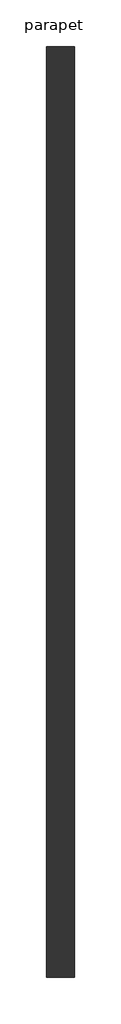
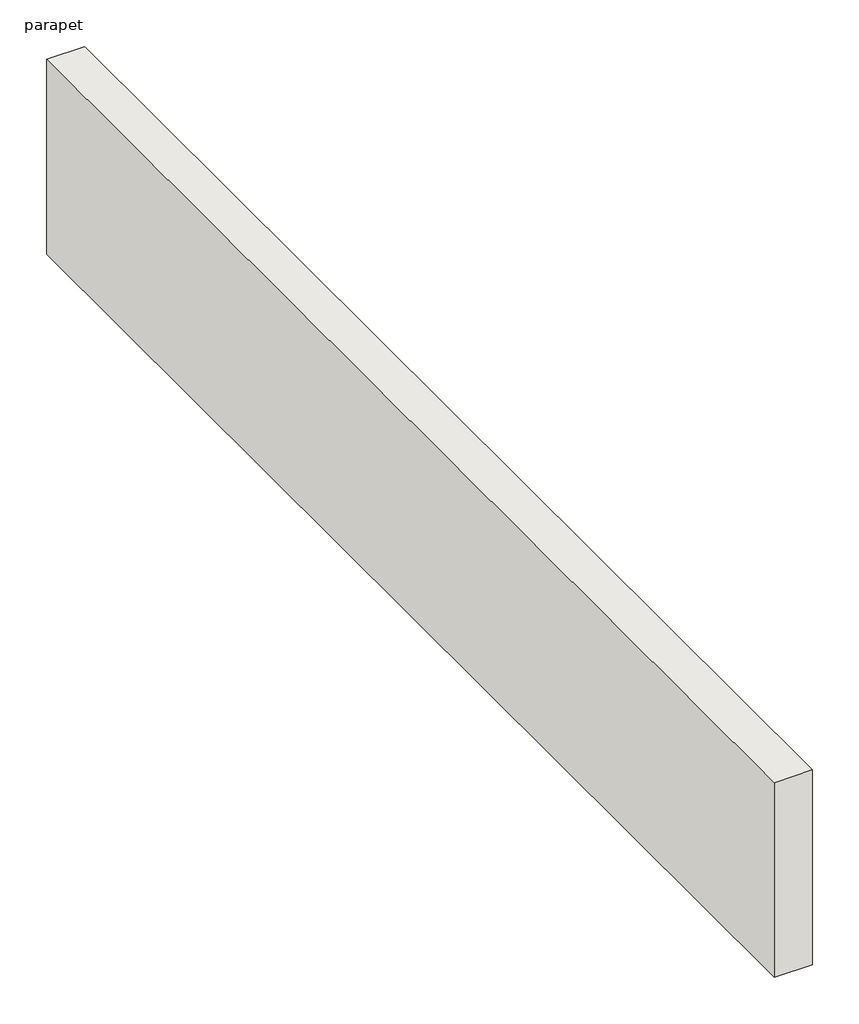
# One storey: 1 wall.
"""IFC4 building model written with IfcOpenShell, lengths in millimetres."""

from ifc_helpers import new_model, si_unit, frame, origin, place, context, project, spatial, polyline, outline, extrude, element, save

model = new_model("IFC4")

# Units and contexts
model_context = context("Model", 3, world=origin())
ifc_project = project(units=[si_unit("LENGTHUNIT", "METRE", prefix="MILLI")], contexts=[model_context])

# Site, building, storey
site = spatial("IfcSite", under=ifc_project)
building = spatial("IfcBuilding", under=site)
storey = spatial("IfcBuildingStorey", under=building, Name="parapet", Elevation=20574.0)

# Wall
placement = place(None, origin())
element("IfcWall", 1, ObjectType="a_Mtl panel on Mtl stud", at=placement, inside=storey, context=model_context, shape_type="SweptSolid", body=[
    extrude(outline(polyline([(-101553.6574925, 24552.4071029), (-101553.6574925, 14290.8071029), (-101864.8074925, 14290.8071029), (-101864.8074925, 24552.4071029), (-101553.6574925, 24552.4071029)])), frame((0.0, 0.0, 20574.0), z_axis=(0.0, 0.0, 1.0), x_axis=(1.0, 0.0, 0.0)), (0.0, 0.0, 1.0), 1676.4),
])

save(model, "model.ifc")
